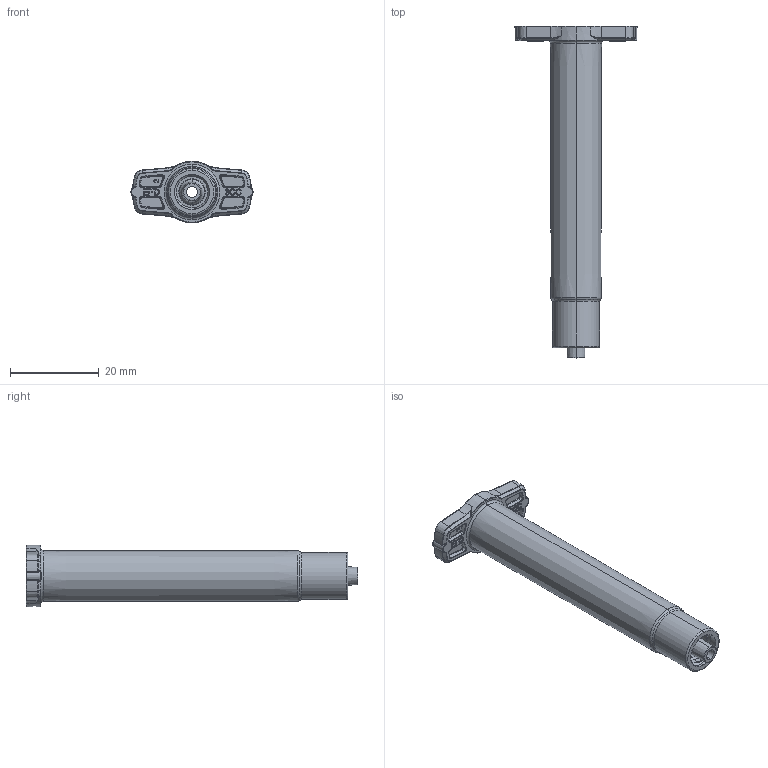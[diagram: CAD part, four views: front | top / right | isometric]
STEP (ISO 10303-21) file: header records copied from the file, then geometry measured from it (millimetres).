
FILE_DESCRIPTION (( 'STEP AP214' ), '1' );
FILE_NAME ('NORDSONEFD-7012013 BARREL O 3CC CL.STEP', '2019-01-17T17:22:40', ( '' ), ( '' ), 'SwSTEP 2.0', 'SolidWorks 2018', '' );
FILE_SCHEMA (( 'AUTOMOTIVE_DESIGN' ));
Length unit declared in the file: inch
Products named in the file (1): NORDSONEFD-7012013 BARREL O 3CC CL
Bounding box: 27.57 x 74.96 x 13.97 mm (x, y, z)
Volume: 3061.7 mm3; surface area: 5530.6 mm2
Topology: 1 solids, 1 shells, 442 faces, 1058 edges, 635 vertices
Faces by surface type: bspline 143, plane 116, torus 88, cylinder 50, cone 45
Entity records: 17863 total; most frequent: CARTESIAN_POINT 8511, ORIENTED_EDGE 2108, DIRECTION 1703, EDGE_CURVE 1054, AXIS2_PLACEMENT_3D 653, VERTEX_POINT 635, EDGE_LOOP 465, FACE_OUTER_BOUND 442
